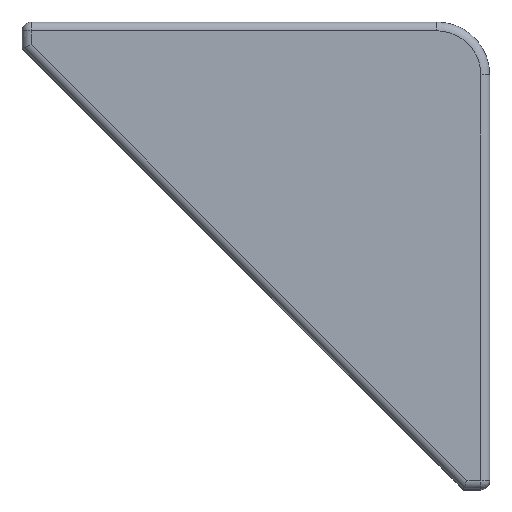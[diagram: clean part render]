
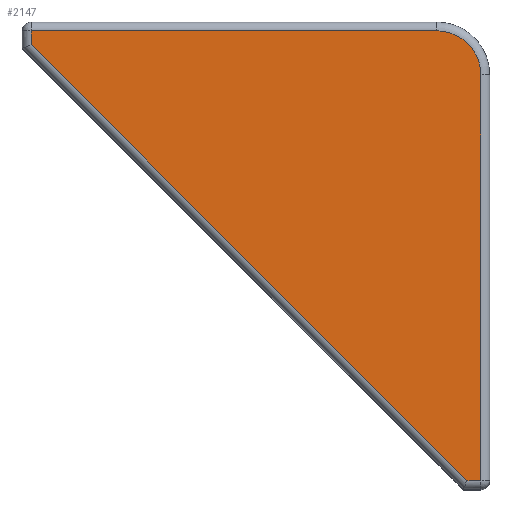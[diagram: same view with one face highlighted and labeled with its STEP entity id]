
A CAD part, top view. The second image highlights one B-rep face of the part: STEP entity #2147.
In plain terms, the highlighted planar face has unit normal (0, 0, 1).
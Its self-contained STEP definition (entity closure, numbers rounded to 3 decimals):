
#603=DIRECTION('',(-1.,0.,0.));
#604=VECTOR('',#603,46.);
#605=CARTESIAN_POINT('',(-3.,-1.,40.));
#606=LINE('',#605,#604);
#607=CARTESIAN_POINT('',(-3.,-6.,40.));
#608=DIRECTION('',(0.,0.,1.));
#609=DIRECTION('',(1.,0.,0.));
#610=AXIS2_PLACEMENT_3D('',#607,#608,#609);
#612=DIRECTION('',(0.,1.,0.));
#613=VECTOR('',#612,46.);
#614=CARTESIAN_POINT('',(2.,-52.,40.));
#615=LINE('',#614,#613);
#616=DIRECTION('',(1.,0.,0.));
#617=VECTOR('',#616,1.586);
#618=CARTESIAN_POINT('',(0.414,-52.,40.));
#619=LINE('',#618,#617);
#620=DIRECTION('',(0.707,-0.707,0.));
#621=VECTOR('',#620,69.882);
#622=CARTESIAN_POINT('',(-49.,-2.586,40.));
#623=LINE('',#622,#621);
#624=DIRECTION('',(0.,-1.,0.));
#625=VECTOR('',#624,1.586);
#626=CARTESIAN_POINT('',(-49.,-1.,40.));
#627=LINE('',#626,#625);
#1281=CARTESIAN_POINT('',(-3.,-1.,40.));
#1282=CARTESIAN_POINT('',(-49.,-1.,40.));
#1283=VERTEX_POINT('',#1281);
#1284=VERTEX_POINT('',#1282);
#1285=CARTESIAN_POINT('',(2.,-6.,40.));
#1286=VERTEX_POINT('',#1285);
#1289=CARTESIAN_POINT('',(2.,-52.,40.));
#1290=VERTEX_POINT('',#1289);
#1323=CARTESIAN_POINT('',(0.414,-52.,40.));
#1324=VERTEX_POINT('',#1323);
#1325=CARTESIAN_POINT('',(-49.,-2.586,40.));
#1326=VERTEX_POINT('',#1325);
#2129=CARTESIAN_POINT('',(0.,0.,40.));
#2130=DIRECTION('',(0.,0.,1.));
#2131=DIRECTION('',(-1.,0.,0.));
#2132=AXIS2_PLACEMENT_3D('',#2129,#2130,#2131);
#2133=PLANE('',#2132);
#2135=ORIENTED_EDGE('',*,*,#2134,.F.);
#2137=ORIENTED_EDGE('',*,*,#2136,.F.);
#2139=ORIENTED_EDGE('',*,*,#2138,.F.);
#2141=ORIENTED_EDGE('',*,*,#2140,.F.);
#2142=ORIENTED_EDGE('',*,*,#2119,.F.);
#2144=ORIENTED_EDGE('',*,*,#2143,.F.);
#2145=EDGE_LOOP('',(#2135,#2137,#2139,#2141,#2142,#2144));
#2146=FACE_OUTER_BOUND('',#2145,.F.);
#2147=ADVANCED_FACE('',(#2146),#2133,.T.);
#611=CIRCLE('',#610,5.);
#2119=EDGE_CURVE('',#1326,#1324,#623,.T.);
#2134=EDGE_CURVE('',#1283,#1284,#606,.T.);
#2136=EDGE_CURVE('',#1286,#1283,#611,.T.);
#2138=EDGE_CURVE('',#1290,#1286,#615,.T.);
#2140=EDGE_CURVE('',#1324,#1290,#619,.T.);
#2143=EDGE_CURVE('',#1284,#1326,#627,.T.);
